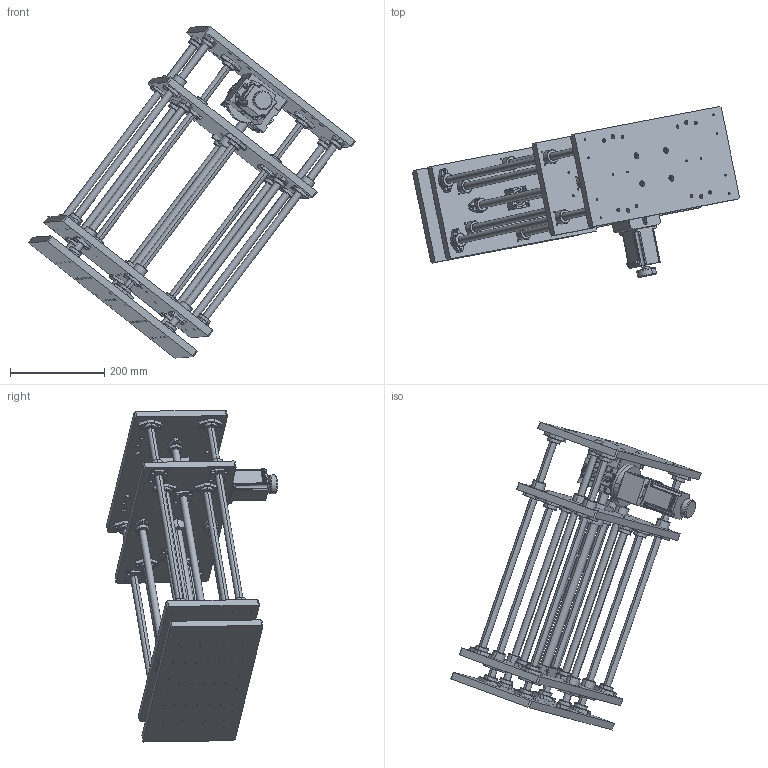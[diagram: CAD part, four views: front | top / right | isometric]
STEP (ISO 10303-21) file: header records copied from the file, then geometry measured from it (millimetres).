
FILE_DESCRIPTION (( 'STEP AP203' ), '1' );
FILE_NAME ('ZS20-300.STEP', '2019-06-06T11:28:10', ( 'PC' ), ( 'Microsoft' ), 'SwSTEP 2.0', 'SolidWorks 2015', '' );
FILE_SCHEMA (( 'CONFIG_CONTROL_DESIGN' ));
Length unit declared in the file: millimetre
Products named in the file (17): 嘐隅啣; 粣杶; 奻怢醱; ѹȦ; 萇儂啣; ZS20-300; 佪裝; 57萇儂; 佪裝蹟譫; 狟菁啣; 汔蔥啣; 熬厒儂釱; 眻盄粣創ㄗ16ㄘ; NMRV30恘謫恘裝熬厒儂_NMRV30; 汔蔥絳翐; 祭輛萇儂蟀諉啣; ZS20-300汔蔥絳翐 - 萵掛
Assembly tree (37 placements, depth 2):
  ZS20-300
    57萇儂
    狟菁啣
    熬厒儂釱
    NMRV30恘謫恘裝熬厒儂_NMRV30
    祭輛萇儂蟀諉啣
    嘐隅啣
    奻怢醱
    萇儂啣
    佪裝
    佪裝蹟譫
    汔蔥啣
    眻盄粣創ㄗ16ㄘ  x12
    汔蔥絳翐  x6
    ZS20-300汔蔥絳翐 - 萵掛  x6
    粣杶
    ѹȦ
Bounding box: 693.69 x 362.8 x 704.05 mm (x, y, z)
Volume: 7426778.2 mm3; surface area: 1444905.9 mm2
Topology: 40 solids, 40 shells, 2735 faces, 6712 edges, 4203 vertices
Faces by surface type: plane 1230, cylinder 1107, cone 384, torus 12, bspline 2
Entity records: 47377 total; most frequent: CARTESIAN_POINT 8253, DIRECTION 7988, ORIENTED_EDGE 7340, EDGE_CURVE 3670, AXIS2_PLACEMENT_3D 2954, VERTEX_POINT 2381, LINE 2080, VECTOR 2080
